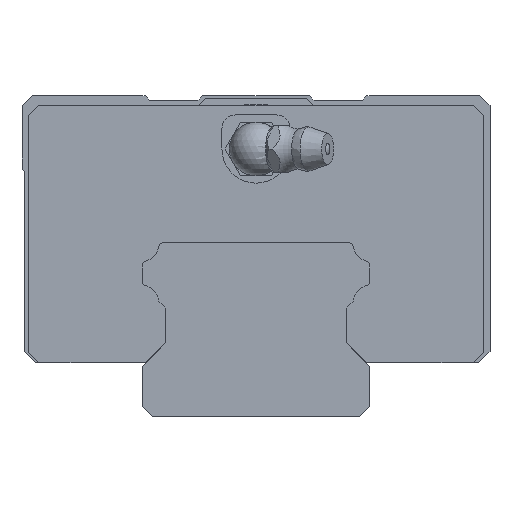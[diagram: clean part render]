
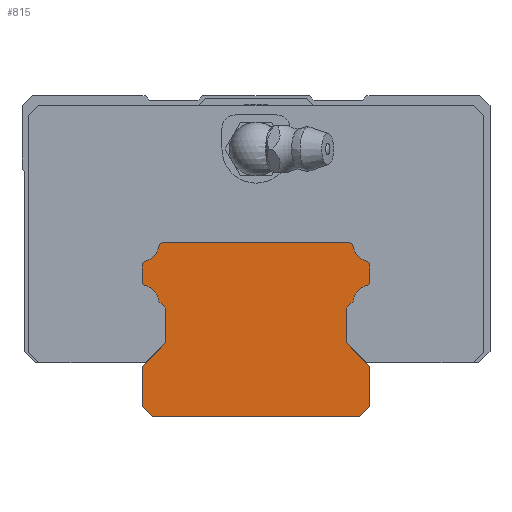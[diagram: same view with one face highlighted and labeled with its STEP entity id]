
A CAD part, front view. The second image highlights one B-rep face of the part: STEP entity #815.
In plain terms, the highlighted planar face has unit normal (0, -1, 0).
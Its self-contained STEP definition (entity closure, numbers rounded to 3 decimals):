
#617=CIRCLE('',#3697,0.8);
#619=CIRCLE('',#3700,2.6);
#621=CIRCLE('',#3713,2.6);
#623=CIRCLE('',#3716,0.8);
#625=CIRCLE('',#3720,0.8);
#627=CIRCLE('',#3723,2.6);
#629=CIRCLE('',#3726,0.8);
#631=CIRCLE('',#3729,0.8);
#633=CIRCLE('',#3732,2.6);
#635=CIRCLE('',#3735,0.8);
#815=ADVANCED_FACE('',(#1061),#936,.T.);
#936=PLANE('',#3739);
#1061=FACE_OUTER_BOUND('',#1298,.T.);
#1298=EDGE_LOOP('',(#2117,#2118,#2119,#2120,#2121,#2122,#2123,#2124,#2125,
#2126,#2127,#2128,#2129,#2130,#2131,#2132,#2133,#2134,#2135,#2136,#2137,
#2138,#2139,#2140));
#2117=ORIENTED_EDGE('',*,*,#2816,.T.);
#2118=ORIENTED_EDGE('',*,*,#2820,.T.);
#2119=ORIENTED_EDGE('',*,*,#2823,.T.);
#2120=ORIENTED_EDGE('',*,*,#2826,.T.);
#2121=ORIENTED_EDGE('',*,*,#2829,.T.);
#2122=ORIENTED_EDGE('',*,*,#2832,.T.);
#2123=ORIENTED_EDGE('',*,*,#2835,.T.);
#2124=ORIENTED_EDGE('',*,*,#2838,.T.);
#2125=ORIENTED_EDGE('',*,*,#2794,.T.);
#2126=ORIENTED_EDGE('',*,*,#2840,.T.);
#2127=ORIENTED_EDGE('',*,*,#2843,.T.);
#2128=ORIENTED_EDGE('',*,*,#2846,.T.);
#2129=ORIENTED_EDGE('',*,*,#2849,.T.);
#2130=ORIENTED_EDGE('',*,*,#2852,.T.);
#2131=ORIENTED_EDGE('',*,*,#2855,.T.);
#2132=ORIENTED_EDGE('',*,*,#2858,.T.);
#2133=ORIENTED_EDGE('',*,*,#2861,.T.);
#2134=ORIENTED_EDGE('',*,*,#2864,.T.);
#2135=ORIENTED_EDGE('',*,*,#2867,.T.);
#2136=ORIENTED_EDGE('',*,*,#2870,.T.);
#2137=ORIENTED_EDGE('',*,*,#2810,.T.);
#2138=ORIENTED_EDGE('',*,*,#2872,.T.);
#2139=ORIENTED_EDGE('',*,*,#2875,.T.);
#2140=ORIENTED_EDGE('',*,*,#2878,.T.);
#2397=VERTEX_POINT('',#5541);
#2398=VERTEX_POINT('',#5542);
#2413=VERTEX_POINT('',#5578);
#2414=VERTEX_POINT('',#5579);
#2419=VERTEX_POINT('',#5591);
#2420=VERTEX_POINT('',#5592);
#2423=VERTEX_POINT('',#5600);
#2425=VERTEX_POINT('',#5606);
#2427=VERTEX_POINT('',#5612);
#2429=VERTEX_POINT('',#5618);
#2431=VERTEX_POINT('',#5624);
#2433=VERTEX_POINT('',#5630);
#2435=VERTEX_POINT('',#5639);
#2437=VERTEX_POINT('',#5645);
#2439=VERTEX_POINT('',#5651);
#2441=VERTEX_POINT('',#5657);
#2443=VERTEX_POINT('',#5663);
#2445=VERTEX_POINT('',#5669);
#2447=VERTEX_POINT('',#5675);
#2449=VERTEX_POINT('',#5681);
#2451=VERTEX_POINT('',#5687);
#2453=VERTEX_POINT('',#5693);
#2455=VERTEX_POINT('',#5702);
#2457=VERTEX_POINT('',#5708);
#2794=EDGE_CURVE('',#2397,#2398,#3106,.T.);
#2810=EDGE_CURVE('',#2413,#2414,#3110,.T.);
#2816=EDGE_CURVE('',#2419,#2420,#3114,.T.);
#2820=EDGE_CURVE('',#2420,#2423,#617,.T.);
#2823=EDGE_CURVE('',#2423,#2425,#619,.T.);
#2826=EDGE_CURVE('',#2425,#2427,#3120,.T.);
#2829=EDGE_CURVE('',#2427,#2429,#3123,.T.);
#2832=EDGE_CURVE('',#2429,#2431,#3126,.T.);
#2835=EDGE_CURVE('',#2431,#2433,#3129,.T.);
#2838=EDGE_CURVE('',#2433,#2397,#3132,.T.);
#2840=EDGE_CURVE('',#2398,#2435,#3134,.T.);
#2843=EDGE_CURVE('',#2435,#2437,#3137,.T.);
#2846=EDGE_CURVE('',#2437,#2439,#3140,.T.);
#2849=EDGE_CURVE('',#2439,#2441,#3143,.T.);
#2852=EDGE_CURVE('',#2441,#2443,#3146,.T.);
#2855=EDGE_CURVE('',#2443,#2445,#621,.T.);
#2858=EDGE_CURVE('',#2445,#2447,#623,.T.);
#2861=EDGE_CURVE('',#2447,#2449,#3151,.T.);
#2864=EDGE_CURVE('',#2449,#2451,#625,.T.);
#2867=EDGE_CURVE('',#2451,#2453,#627,.T.);
#2870=EDGE_CURVE('',#2453,#2413,#629,.T.);
#2872=EDGE_CURVE('',#2414,#2455,#631,.T.);
#2875=EDGE_CURVE('',#2455,#2457,#633,.T.);
#2878=EDGE_CURVE('',#2457,#2419,#635,.T.);
#3106=LINE('',#5540,#3384);
#3110=LINE('',#5577,#3388);
#3114=LINE('',#5590,#3392);
#3120=LINE('',#5611,#3398);
#3123=LINE('',#5617,#3401);
#3126=LINE('',#5623,#3404);
#3129=LINE('',#5629,#3407);
#3132=LINE('',#5635,#3410);
#3134=LINE('',#5638,#3412);
#3137=LINE('',#5644,#3415);
#3140=LINE('',#5650,#3418);
#3143=LINE('',#5656,#3421);
#3146=LINE('',#5662,#3424);
#3151=LINE('',#5680,#3429);
#3384=VECTOR('',#4454,1.);
#3388=VECTOR('',#4492,1.);
#3392=VECTOR('',#4502,1.);
#3398=VECTOR('',#4522,1.);
#3401=VECTOR('',#4527,1.);
#3404=VECTOR('',#4532,1.);
#3407=VECTOR('',#4537,1.);
#3410=VECTOR('',#4542,1.);
#3412=VECTOR('',#4546,1.);
#3415=VECTOR('',#4551,1.);
#3418=VECTOR('',#4556,1.);
#3421=VECTOR('',#4561,1.);
#3424=VECTOR('',#4566,1.);
#3429=VECTOR('',#4585,1.);
#3697=AXIS2_PLACEMENT_3D('',#5599,#4508,#4509);
#3700=AXIS2_PLACEMENT_3D('',#5605,#4515,#4516);
#3713=AXIS2_PLACEMENT_3D('',#5668,#4571,#4572);
#3716=AXIS2_PLACEMENT_3D('',#5674,#4578,#4579);
#3720=AXIS2_PLACEMENT_3D('',#5686,#4590,#4591);
#3723=AXIS2_PLACEMENT_3D('',#5692,#4597,#4598);
#3726=AXIS2_PLACEMENT_3D('',#5698,#4604,#4605);
#3729=AXIS2_PLACEMENT_3D('',#5701,#4610,#4611);
#3732=AXIS2_PLACEMENT_3D('',#5707,#4617,#4618);
#3735=AXIS2_PLACEMENT_3D('',#5713,#4624,#4625);
#3739=AXIS2_PLACEMENT_3D('',#5717,#4632,#4633);
#4454=DIRECTION('',(1.,0.,0.));
#4492=DIRECTION('',(-1.,0.,0.));
#4502=DIRECTION('',(0.,0.,-1.));
#4508=DIRECTION('',(0.,-1.,0.));
#4509=DIRECTION('',(1.,0.,0.));
#4515=DIRECTION('',(0.,1.,0.));
#4516=DIRECTION('',(1.,0.,0.));
#4522=DIRECTION('',(0.707,0.,-0.707));
#4527=DIRECTION('',(0.,0.,-1.));
#4532=DIRECTION('',(-0.707,0.,-0.707));
#4537=DIRECTION('',(0.,0.,-1.));
#4542=DIRECTION('',(0.707,0.,-0.707));
#4546=DIRECTION('',(0.707,0.,0.707));
#4551=DIRECTION('',(0.,0.,1.));
#4556=DIRECTION('',(-0.707,0.,0.707));
#4561=DIRECTION('',(0.,0.,1.));
#4566=DIRECTION('',(0.707,0.,0.707));
#4571=DIRECTION('',(0.,1.,0.));
#4572=DIRECTION('',(1.,0.,0.));
#4578=DIRECTION('',(0.,-1.,0.));
#4579=DIRECTION('',(1.,0.,0.));
#4585=DIRECTION('',(0.,0.,1.));
#4590=DIRECTION('',(0.,-1.,0.));
#4591=DIRECTION('',(1.,0.,0.));
#4597=DIRECTION('',(0.,1.,0.));
#4598=DIRECTION('',(1.,0.,0.));
#4604=DIRECTION('',(0.,-1.,0.));
#4605=DIRECTION('',(1.,0.,0.));
#4610=DIRECTION('',(0.,-1.,0.));
#4611=DIRECTION('',(1.,0.,0.));
#4617=DIRECTION('',(0.,1.,0.));
#4618=DIRECTION('',(1.,0.,0.));
#4624=DIRECTION('',(0.,-1.,0.));
#4625=DIRECTION('',(1.,0.,0.));
#4632=DIRECTION('',(0.,-1.,0.));
#4633=DIRECTION('',(0.,0.,-1.));
#5540=CARTESIAN_POINT('',(-15.5,-95.,0.));
#5541=CARTESIAN_POINT('',(-15.5,-95.,0.));
#5542=CARTESIAN_POINT('',(15.5,-95.,0.));
#5577=CARTESIAN_POINT('',(13.785,-95.,26.));
#5578=CARTESIAN_POINT('',(13.785,-95.,26.));
#5579=CARTESIAN_POINT('',(-13.785,-95.,26.));
#5590=CARTESIAN_POINT('',(-17.,-95.,22.517));
#5591=CARTESIAN_POINT('',(-17.,-95.,22.517));
#5592=CARTESIAN_POINT('',(-17.,-95.,20.283));
#5599=CARTESIAN_POINT('',(-16.2,-95.,20.283));
#5600=CARTESIAN_POINT('',(-16.42,-95.,19.514));
#5605=CARTESIAN_POINT('',(-17.134,-95.,17.014));
#5606=CARTESIAN_POINT('',(-14.545,-95.,17.245));
#5611=CARTESIAN_POINT('',(-14.545,-95.,17.245));
#5612=CARTESIAN_POINT('',(-13.5,-95.,16.2));
#5617=CARTESIAN_POINT('',(-13.5,-95.,16.2));
#5618=CARTESIAN_POINT('',(-13.5,-95.,11.));
#5623=CARTESIAN_POINT('',(-13.5,-95.,11.));
#5624=CARTESIAN_POINT('',(-17.,-95.,7.5));
#5629=CARTESIAN_POINT('',(-17.,-95.,7.5));
#5630=CARTESIAN_POINT('',(-17.,-95.,1.5));
#5635=CARTESIAN_POINT('',(-17.,-95.,1.5));
#5638=CARTESIAN_POINT('',(15.5,-95.,0.));
#5639=CARTESIAN_POINT('',(17.,-95.,1.5));
#5644=CARTESIAN_POINT('',(17.,-95.,1.5));
#5645=CARTESIAN_POINT('',(17.,-95.,7.5));
#5650=CARTESIAN_POINT('',(17.,-95.,7.5));
#5651=CARTESIAN_POINT('',(13.5,-95.,11.));
#5656=CARTESIAN_POINT('',(13.5,-95.,11.));
#5657=CARTESIAN_POINT('',(13.5,-95.,16.2));
#5662=CARTESIAN_POINT('',(13.5,-95.,16.2));
#5663=CARTESIAN_POINT('',(14.545,-95.,17.245));
#5668=CARTESIAN_POINT('',(17.134,-95.,17.014));
#5669=CARTESIAN_POINT('',(16.42,-95.,19.514));
#5674=CARTESIAN_POINT('',(16.2,-95.,20.283));
#5675=CARTESIAN_POINT('',(17.,-95.,20.283));
#5680=CARTESIAN_POINT('',(17.,-95.,20.283));
#5681=CARTESIAN_POINT('',(17.,-95.,22.517));
#5686=CARTESIAN_POINT('',(16.2,-95.,22.517));
#5687=CARTESIAN_POINT('',(16.42,-95.,23.286));
#5692=CARTESIAN_POINT('',(17.134,-95.,25.786));
#5693=CARTESIAN_POINT('',(14.573,-95.,25.338));
#5698=CARTESIAN_POINT('',(13.785,-95.,25.2));
#5701=CARTESIAN_POINT('',(-13.785,-95.,25.2));
#5702=CARTESIAN_POINT('',(-14.573,-95.,25.338));
#5707=CARTESIAN_POINT('',(-17.134,-95.,25.786));
#5708=CARTESIAN_POINT('',(-16.42,-95.,23.286));
#5713=CARTESIAN_POINT('',(-16.2,-95.,22.517));
#5717=CARTESIAN_POINT('',(-16.2,-95.,20.283));
